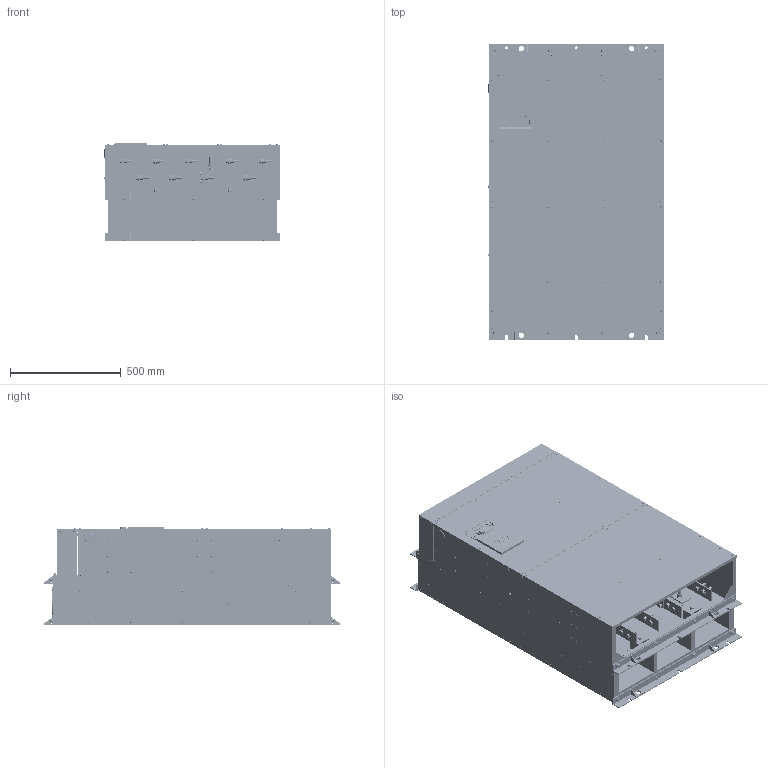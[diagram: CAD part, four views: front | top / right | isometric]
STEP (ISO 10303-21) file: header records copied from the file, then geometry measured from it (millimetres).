
FILE_DESCRIPTION((''),'2;1');
FILE_NAME('3D-INV-02_22_ASM','2010-04-20T',('HY65544'),(''),'PRO/ENGINEER BY PARAMETRIC TECHNOLOGY CORPORATION, 2006420','PRO/ENGINEER BY PARAMETRIC TECHNOLOGY CORPORATION, 2006420','');
FILE_SCHEMA(('CONFIG_CONTROL_DESIGN'));
Products named in the file (39): 3D-BASE-02_22_; 3D-A70-CA_; 3D-WAKU-02_22_ASM; 3D-ASHI_UPR-02_22_; 3D-BOLT-SW-PW-M10X25_; 3D-ASHI_UPR-BOLT-02_22_ASM; 3D-ASHI_LOW-02_22_; 3D-ASHI_LOW-BOLT-02_22_ASM; 3D-GROM-SEIGYO_; 3D-GROM-E-HOGO35_; 3D-FAN_COV_H01-02_22_; 3D-FAN-140_; 3D-SC-SW-PW-P-M4X60_; 3D-FAN_ASSY_H01-02_22_ASM; 3D-FAN_COV_H02-02_22_; 3D-FAN_ASSY_H02-02_22_ASM; 3D-SC-SW-PW-P-M5X12_; 3D-FAN_COV-NEJI-02_22_ASM; 3D-BOLT-SW-PW-P-M10X25_; 3D-TE-CONT_; 3D-TE_NEJI-M3_5X8_; 3D-TE_COV-CONT_; 3D-TE-CONT_ASM; 3D-TE_NEJI-M4X8_; 3D-TE_COV-R1S1_; 3D-TE_ASSY-R1S1_ASM; 3D-PW-M12X50_; 3D-NUT-SW-PW-M12_; 3D-TE_NEJI-02_22_ASM; 3D-CA_COV_; 3D-IF_COV_; 3D-DU_ASSY_; 3D-CA_COV_ASM; 3D-HOKYO-02_22_; 3D-COV_H01-02_22_; 3D-COV_H02-02_22_; 3D-COV_H03-02_22_; 3D-COV-NEJI-02_22_ASM; 3D-INV-02_22_ASM
Assembly tree (188 placements, depth 3):
  3D-INV-02_22_ASM
    3D-WAKU-02_22_ASM
      3D-BASE-02_22_
      3D-A70-CA_
    3D-ASHI_UPR-02_22_
    3D-ASHI_UPR-BOLT-02_22_ASM
      3D-BOLT-SW-PW-M10X25_  x4
    3D-ASHI_LOW-02_22_
    3D-ASHI_LOW-BOLT-02_22_ASM
      3D-BOLT-SW-PW-M10X25_  x4
    3D-GROM-SEIGYO_
    3D-GROM-E-HOGO35_
    3D-FAN_ASSY_H01-02_22_ASM
      3D-FAN_COV_H01-02_22_
      3D-FAN-140_  x2
      3D-SC-SW-PW-P-M4X60_  x8
    3D-FAN_ASSY_H02-02_22_ASM
      3D-FAN_COV_H02-02_22_
      3D-FAN-140_  x3
      3D-SC-SW-PW-P-M4X60_  x12
    3D-FAN_COV-NEJI-02_22_ASM
      3D-SC-SW-PW-P-M5X12_  x12
    3D-BOLT-SW-PW-P-M10X25_  x2
    3D-TE-CONT_ASM
      3D-TE-CONT_
      3D-TE_NEJI-M3_5X8_  x36
      3D-TE_COV-CONT_
    3D-TE_ASSY-R1S1_ASM
      3D-TE_NEJI-M4X8_  x4
      3D-TE_COV-R1S1_
    3D-TE_NEJI-02_22_ASM
      3D-PW-M12X50_  x20
      3D-NUT-SW-PW-M12_  x20
    3D-CA_COV_ASM
      3D-CA_COV_
      3D-IF_COV_
      3D-DU_ASSY_
    3D-HOKYO-02_22_
    3D-COV_H01-02_22_
    3D-COV_H02-02_22_
    3D-COV_H03-02_22_
    3D-COV-NEJI-02_22_ASM
      3D-SC-SW-PW-P-M5X12_  x32
Bounding box: 794 x 1330 x 440.2 mm (x, y, z)
Volume: 5984684.6 mm3; surface area: 9731161.1 mm2
Topology: 176 solids, 219 shells, 7631 faces, 19105 edges, 11777 vertices
Faces by surface type: plane 4521, cylinder 2096, torus 502, cone 254, sphere 248, bspline 10
Entity records: 153551 total; most frequent: CARTESIAN_POINT 27904, DIRECTION 27529, ORIENTED_EDGE 25534, EDGE_CURVE 12767, AXIS2_PLACEMENT_3D 9858, VERTEX_POINT 7893, VECTOR 7813, LINE 7813
